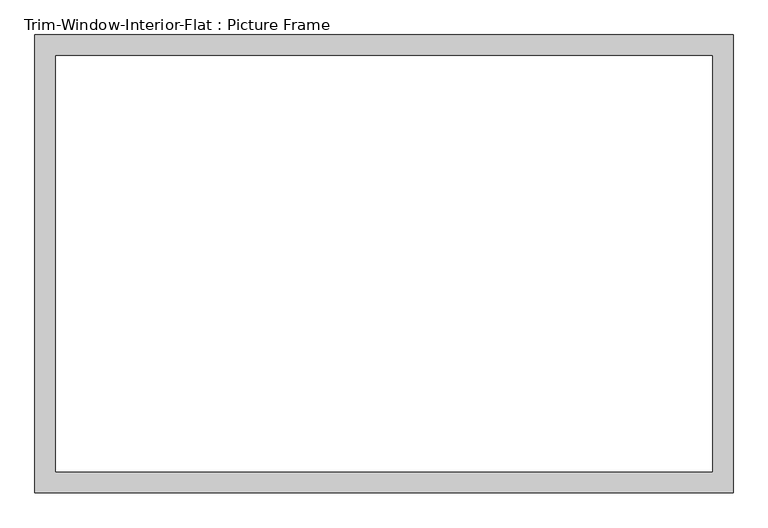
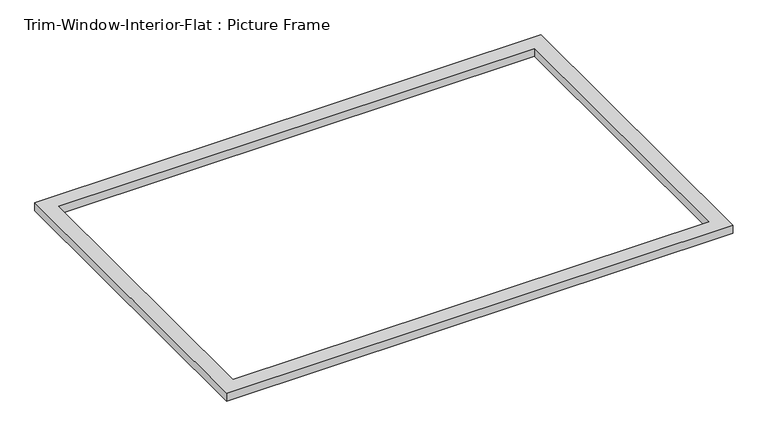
"""IFC4 building model written with IfcOpenShell, lengths in millimetres: proxy geometry, Trim-Window-Interior-Flat : Picture Frame."""

from ifc_helpers import new_model, si_unit, origin, origin_with_axes, place, context, project, spatial, polyline, outline, extrude, source, transform, mapped, element, save


def trim_window_interior_flat_picture_frame_6e5e5000(model_context):
    return source(origin(), model_context, "Body", "SweptSolid", [
        extrude(outline(polyline([(958.85, 44.45), (958.85, -1212.85), (-958.85, -1212.85), (-958.85, 44.45), (958.85, 44.45)]), holes=[polyline([(901.7, -12.7), (-901.7, -12.7), (-901.7, -1155.7), (901.7, -1155.7), (901.7, -12.7)])]), origin_with_axes(), (0.0, 0.0, 1.0), 31.75),
    ])


if __name__ == "__main__":
    model = new_model("IFC4")
    model_context = context("Model", 3, world=origin())
    ifc_project = project(units=[si_unit("LENGTHUNIT", "METRE", prefix="MILLI")], contexts=[model_context])
    site = spatial("IfcSite", under=ifc_project)
    building = spatial("IfcBuilding", under=site)
    placement = place(None, origin())
    trim_window_interior_flat_picture_frame_shape = trim_window_interior_flat_picture_frame_6e5e5000(model_context)
    element("IfcBuildingElementProxy", 1, Name="Trim-Window-Interior-Flat : Picture Frame", ObjectType="Trim-Window-Interior-Flat : Picture Frame", at=placement, inside=building, context=model_context, shape_type="MappedRepresentation", body=[
        mapped(trim_window_interior_flat_picture_frame_shape, transform((0.0, 0.0, 0.0), x_axis=(1.0, 0.0, 0.0), y_axis=(0.0, 1.0, 0.0), z_axis=(0.0, 0.0, 1.0))),
    ])
    save(model, "model.ifc")
